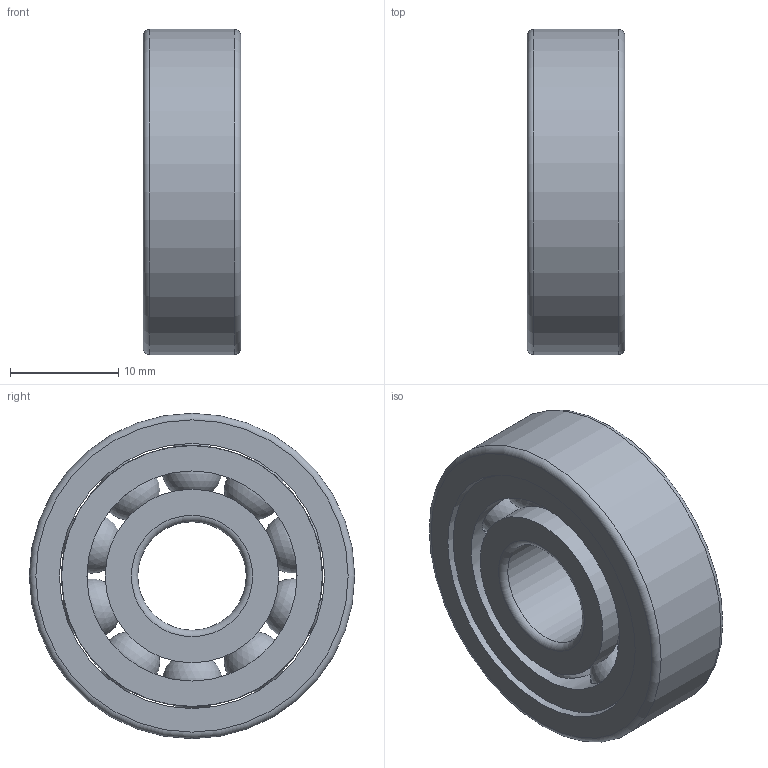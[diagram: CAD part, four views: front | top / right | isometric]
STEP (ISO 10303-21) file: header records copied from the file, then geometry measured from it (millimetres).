
FILE_DESCRIPTION(/* description */ (''),/* implementation_level */ '2;1');
FILE_NAME(/* name */ 'S_6200_TA.step',/* time_stamp */ '2013-03-06T14:48:59+01:00',/* author */ ('Marian'),/* organization */ ('GMN'),/* preprocessor_version */ 'ST-DEVELOPER v11',/* originating_system */ 'SIEMENS UGS NX 6.0',/* authorisation */ '');
FILE_SCHEMA (('CONFIG_CONTROL_DESIGN'));
Length unit declared in the file: millimetre
Products named in the file (1): S_6200_TA
Bounding box: 9 x 30 x 30 mm (x, y, z)
Volume: 4471.4 mm3; surface area: 5201.6 mm2
Topology: 13 solids, 13 shells, 40 faces, 98 edges, 62 vertices
Faces by surface type: cylinder 17, sphere 10, torus 6, plane 6, cone 1
Full cylindrical faces by diameter (mm): 5.756 x10, 10 x1, 16 x2, 19.376 x1, 24.05 x1, 24.45 x1, 30 x1
Entity records: 2038 total; most frequent: CARTESIAN_POINT 1271, DIRECTION 122, FACE_BOUND 90, EDGE_LOOP 80, ORIENTED_EDGE 80, AXIS2_PLACEMENT_3D 61, VERTEX_POINT 50, EDGE_CURVE 40
